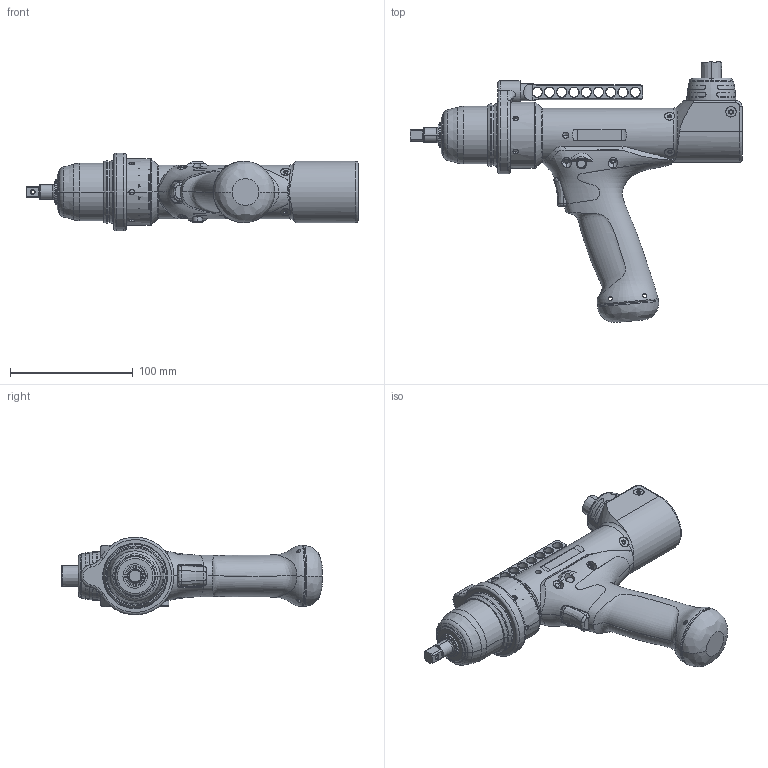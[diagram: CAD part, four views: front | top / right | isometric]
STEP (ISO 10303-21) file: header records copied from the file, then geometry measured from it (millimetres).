
FILE_DESCRIPTION((''),'2;1');
FILE_NAME('6151660420','2016-06-10T',('greextsd'),(''),'CREO PARAMETRIC BY PTC INC, 2016050','CREO PARAMETRIC BY PTC INC, 2016050','');
FILE_SCHEMA(('CONFIG_CONTROL_DESIGN'));
Products named in the file (1): 6151660420
Bounding box: 270.7 x 212.68 x 63.34 mm (x, y, z)
Volume: 298352.2 mm3; surface area: 168863.3 mm2
Topology: 6 solids, 6 shells, 4077 faces, 11063 edges, 7123 vertices
Faces by surface type: plane 2383, cylinder 819, bspline 365, cone 274, torus 161, extrusion 75
Entity records: 204159 total; most frequent: CARTESIAN_POINT 109469, ORIENTED_EDGE 22082, DIRECTION 16368, EDGE_CURVE 11041, VERTEX_POINT 7123, AXIS2_PLACEMENT_3D 6049, B_SPLINE_CURVE_WITH_KNOTS 4509, EDGE_LOOP 4342
